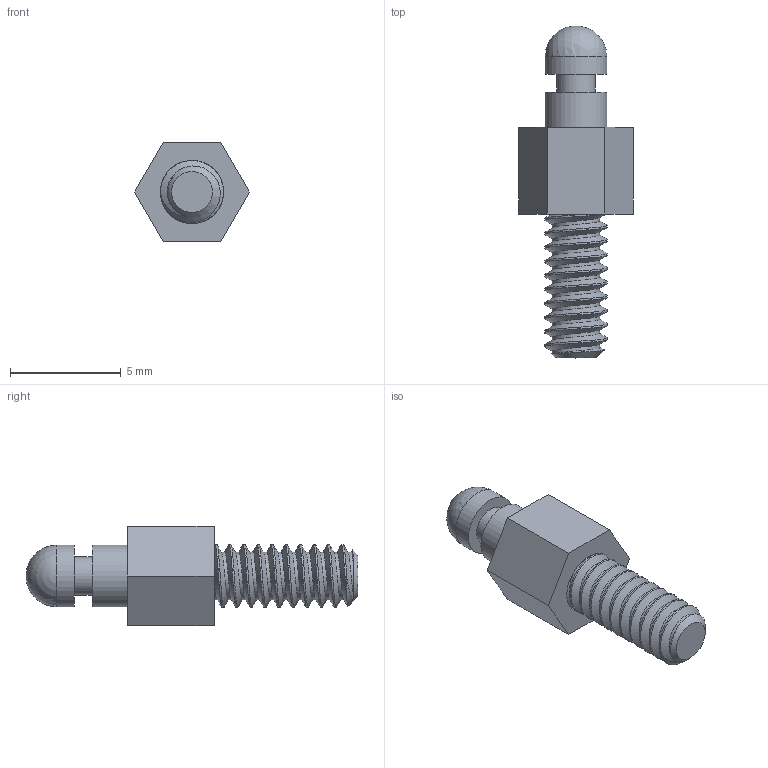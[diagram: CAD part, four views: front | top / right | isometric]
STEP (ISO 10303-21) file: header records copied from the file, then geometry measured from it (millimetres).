
FILE_DESCRIPTION (( 'STEP AP203' ), '1' );
FILE_NAME ('QLOCKPOST440-3.STEP', '2026-06-16T12:29:08', ( '' ), ( '' ), 'SwSTEP 2.0', 'SolidWorks 2020', '' );
FILE_SCHEMA (( 'CONFIG_CONTROL_DESIGN' ));
Length unit declared in the file: millimetre
Products named in the file (1): QLOCKPOST440-3
Bounding box: 5.2 x 15 x 4.5 mm (x, y, z)
Volume: 119.9 mm3; surface area: 214.7 mm2
Topology: 1 solids, 1 shells, 23 faces, 53 edges, 34 vertices
Faces by surface type: plane 13, bspline 4, cylinder 4, sphere 1, cone 1
Full cylindrical faces by diameter (mm): 1.75 x1, 2.8 x2
Entity records: 3670 total; most frequent: CARTESIAN_POINT 3168, ORIENTED_EDGE 86, DIRECTION 76, EDGE_CURVE 43, EDGE_LOOP 31, VERTEX_POINT 30, AXIS2_PLACEMENT_3D 29, FACE_OUTER_BOUND 26
